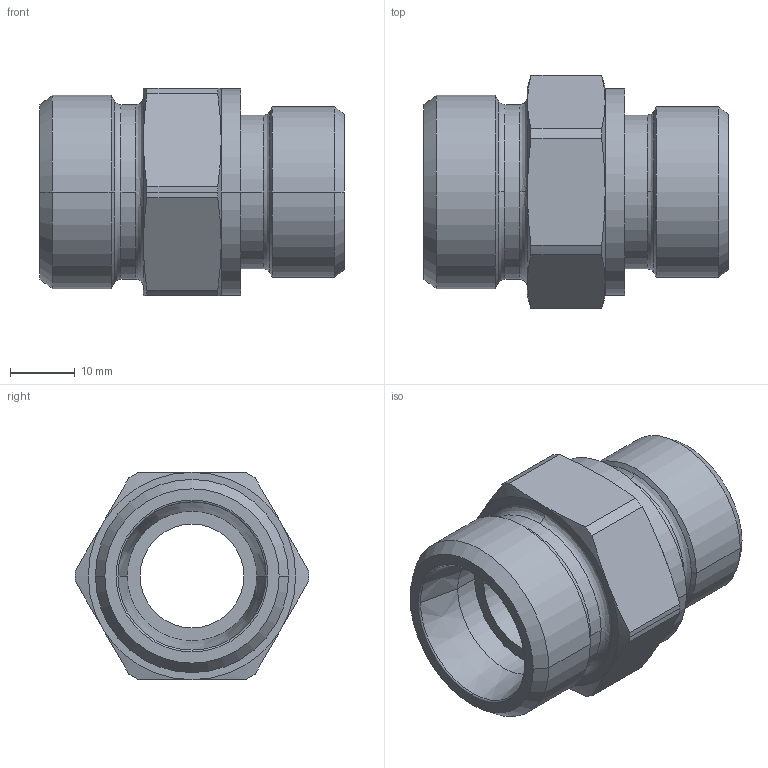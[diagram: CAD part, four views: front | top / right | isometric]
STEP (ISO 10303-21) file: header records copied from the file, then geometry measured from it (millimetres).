
FILE_DESCRIPTION((''),'2;1');
FILE_NAME('100520.stp','2007-10-30T14:15:40',(''),(''),'AutoCAD STEP 2000i','AutoCAD 2000i',', , ');
FILE_SCHEMA(('CONFIG_CONTROL_DESIGN'));
Length unit declared in the file: millimetre
Products named in the file (2): 100520.0; CHIAVE SMUSSATA#0
Assembly tree (1 placements, depth 2):
  100520.0
    CHIAVE SMUSSATA#0
Bounding box: 47 x 36 x 32 mm (x, y, z)
Volume: 20190.6 mm3; surface area: 8380.5 mm2
Topology: 1 solids, 1 shells, 75 faces, 185 edges, 117 vertices
Faces by surface type: cylinder 24, cone 24, plane 13, bspline 12, torus 2
Entity records: 2835 total; most frequent: CARTESIAN_POINT 955, DIRECTION 410, ORIENTED_EDGE 370, EDGE_CURVE 185, AXIS2_PLACEMENT_3D 184, CIRCLE 119, VERTEX_POINT 117, EDGE_LOOP 82
